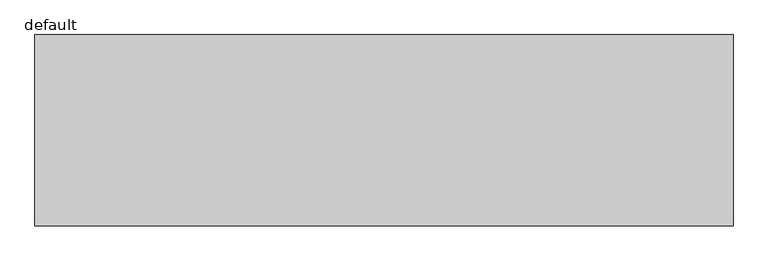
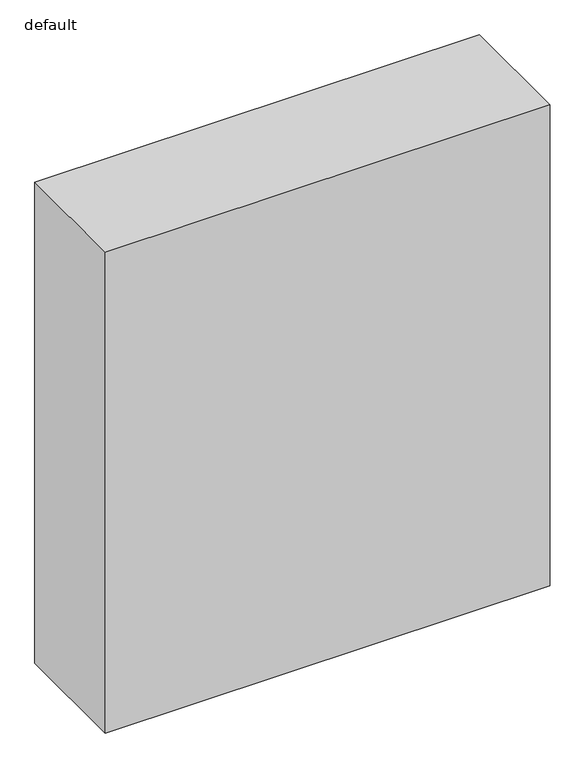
"""IFC4 building model written with IfcOpenShell, lengths in millimetres: furniture geometry, Fu_шкаф встроенный_LEG : default."""

from ifc_helpers import new_model, si_unit, origin, origin_with_axes, place, context, project, spatial, polyline, outline, extrude, source, transform, mapped, element, save


def default_8cef931d(model_context):
    return source(origin(), model_context, "Body", "SweptSolid", [
        extrude(outline(polyline([(2188.8655946, 0.0), (2188.8655946, -600.0), (0.0, -600.0), (0.0, 0.0), (2188.8655946, 0.0)])), origin_with_axes(), (0.0, 0.0, 1.0), 2500.0),
    ])


if __name__ == "__main__":
    model = new_model("IFC4")
    model_context = context("Model", 3, world=origin())
    ifc_project = project(units=[si_unit("LENGTHUNIT", "METRE", prefix="MILLI")], contexts=[model_context])
    site = spatial("IfcSite", under=ifc_project)
    building = spatial("IfcBuilding", under=site)
    placement = place(None, origin())
    default_shape = default_8cef931d(model_context)
    element("IfcFurniture", 1, ObjectType="Fu_шкаф встроенный_LEG : default", at=placement, inside=building, context=model_context, shape_type="MappedRepresentation", body=[
        mapped(default_shape, transform((0.0, 0.0, 0.0), x_axis=(1.0, 0.0, 0.0), y_axis=(0.0, 1.0, 0.0), z_axis=(0.0, 0.0, 1.0))),
    ])
    save(model, "model.ifc")
